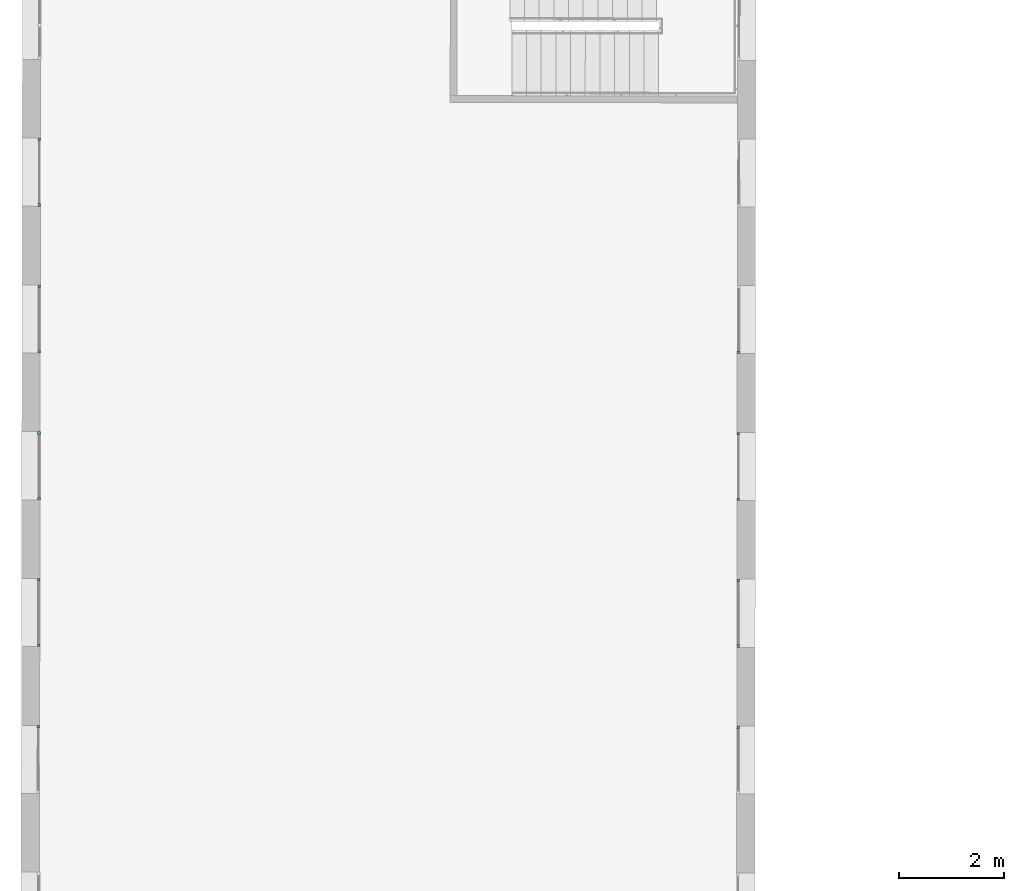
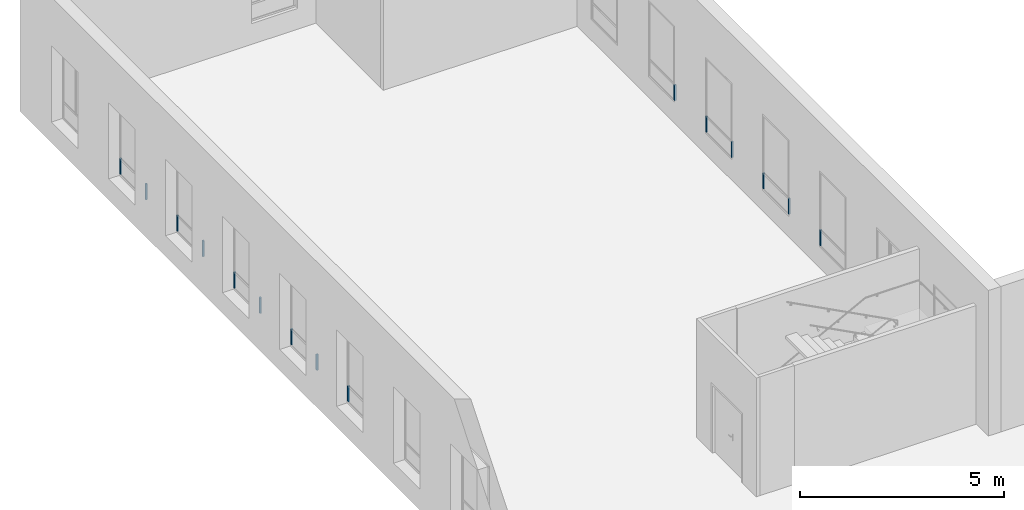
# One storey, part 17 of 35: 15 members, 9 elements without a shape of their own.
"""IFC2X3 building model written with IfcOpenShell, lengths in metres."""

from ifc_helpers import new_model, entity, si_unit, converted_unit, derived_unit, direction, frame, origin, origin_2d_with_axis, place, context, subcontext, project, spatial, rectangle, extrude, source, transform, mapped, material, type_object, type_shapes, element, aggregate, save


model = new_model("IFC2X3")

# Units and contexts
model_context = context("Model", 3, precision=1e-05, world=origin(), true_north=direction((6.123233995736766e-17, 1.0)))
body_context = subcontext(model_context, "Body", "Model", "MODEL_VIEW")
ifc_project = project(units=[si_unit("LENGTHUNIT", "METRE"), si_unit("AREAUNIT", "SQUARE_METRE"), converted_unit("PLANEANGLEUNIT", "DEGREE", entity("IfcPlaneAngleMeasure", 0.017453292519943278), si_unit("PLANEANGLEUNIT", "RADIAN"), dimensions=[0, 0, 0, 0, 0, 0, 0]), derived_unit("THERMALTRANSMITTANCEUNIT", [(si_unit("MASSUNIT", "GRAM", prefix="KILO"), 1), (si_unit("THERMODYNAMICTEMPERATUREUNIT", "KELVIN"), -1), (si_unit("TIMEUNIT", "SECOND"), -3)])], contexts=[model_context])

# Site, building, storey
site_placement = place(None, frame((1253.6752467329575, 2072.143113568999, 91.49999999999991), z_axis=(0.0, 0.0, 1.0), x_axis=(0.7237211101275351, 0.6900925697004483, 0.0)))
site = spatial("IfcSite", under=ifc_project, at=site_placement, Name="Surface", CompositionType="ELEMENT")
building_placement = place(site_placement, origin())
building = spatial("IfcBuilding", under=site, at=building_placement, CompositionType="ELEMENT")
storey_placement = place(building_placement, frame((0.0, 0.0, 3.549999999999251)))
storey = spatial("IfcBuildingStorey", under=building, at=storey_placement, Name="1-R+1", CompositionType="ELEMENT", Elevation=3.549999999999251)

# Curtain wall, member
curtain_wall_type = type_object("IfcCurtainWallType", Name="Mur-rideau:Menuiserie Ext 1F+1OB VERTIC", PredefinedType="NOTDEFINED")
curtain_wall_1_placement = place(storey_placement, frame((0.0, 0.0, -3.549999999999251)))
curtain_wall_1 = element("IfcCurtainWall", 1, at=curtain_wall_1_placement, inside=storey, type_object=curtain_wall_type, Name="Mur-rideau:Menuiserie Ext 1F+1OB VERTIC", ObjectType="Mur-rideau:Menuiserie Ext 1F+1OB VERTIC")
ifc_material = material(Name="OMD_Aluminium Men Ext")
member_type_1 = type_object("IfcMemberType", Name="Meneau rectangulaire:50x50", PredefinedType="MULLION", material=ifc_material)
shared_shape_1 = source(origin(), body_context, "Body", "SweptSolid", [
    extrude(rectangle(XDim=0.05, YDim=0.049999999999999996, at=origin_2d_with_axis()), frame((-0.025, 0.0, -0.4699999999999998), z_axis=(0.0, 0.0, 1.0), x_axis=(-1.0, 0.0, 0.0)), (0.0, 0.0, 1.0), 0.4699999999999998),
])
type_shapes(member_type_1, [shared_shape_1])
member_1_placement = place(curtain_wall_1_placement, frame((159.56004066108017, 20.33143924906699, 4.219999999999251), z_axis=(0.0, 0.0, -1.0), x_axis=(0.6911544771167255, 0.7227070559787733, 0.0)))
member_1 = element("IfcMember", 2, at=member_1_placement, type_object=member_type_1, material=ifc_material, Name="Meneau rectangulaire:50x50", ObjectType="Meneau rectangulaire:50x50", context=body_context, shape_type="MappedRepresentation", body=[
    mapped(shared_shape_1, transform((0.0, 0.0, 0.0), scale=1.0)),
])

curtain_wall_2_placement = place(storey_placement, frame((0.0, 0.0, -3.549999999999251)))
curtain_wall_2 = element("IfcCurtainWall", 3, at=curtain_wall_2_placement, inside=storey, type_object=curtain_wall_type, Name="Mur-rideau:Menuiserie Ext 1F+1OB VERTIC", ObjectType="Mur-rideau:Menuiserie Ext 1F+1OB VERTIC")
member_2_placement = place(curtain_wall_2_placement, frame((161.49479533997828, 22.355475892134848, 4.219999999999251), z_axis=(0.0, 0.0, -1.0), x_axis=(0.6911544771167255, 0.7227070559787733, 0.0)))
member_2 = element("IfcMember", 4, at=member_2_placement, type_object=member_type_1, material=ifc_material, Name="Meneau rectangulaire:50x50", ObjectType="Meneau rectangulaire:50x50", context=body_context, shape_type="MappedRepresentation", body=[
    mapped(shared_shape_1, transform((0.0, 0.0, 0.0), scale=1.0)),
])

curtain_wall_3_placement = place(storey_placement, frame((0.0, 0.0, -3.549999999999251)))
curtain_wall_3 = element("IfcCurtainWall", 5, at=curtain_wall_3_placement, inside=storey, type_object=curtain_wall_type, Name="Mur-rideau:Menuiserie Ext 1F+1OB VERTIC", ObjectType="Mur-rideau:Menuiserie Ext 1F+1OB VERTIC")
member_3_placement = place(curtain_wall_3_placement, frame((163.4295500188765, 24.37951253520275, 4.219999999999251), z_axis=(0.0, 0.0, -1.0), x_axis=(0.6911544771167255, 0.7227070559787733, 0.0)))
member_3 = element("IfcMember", 6, at=member_3_placement, type_object=member_type_1, material=ifc_material, Name="Meneau rectangulaire:50x50", ObjectType="Meneau rectangulaire:50x50", context=body_context, shape_type="MappedRepresentation", body=[
    mapped(shared_shape_1, transform((0.0, 0.0, 0.0), scale=1.0)),
])

curtain_wall_4_placement = place(storey_placement, frame((0.0, 0.0, -3.549999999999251)))
curtain_wall_4 = element("IfcCurtainWall", 7, at=curtain_wall_4_placement, inside=storey, type_object=curtain_wall_type, Name="Mur-rideau:Menuiserie Ext 1F+1OB VERTIC", ObjectType="Mur-rideau:Menuiserie Ext 1F+1OB VERTIC")
member_4_placement = place(curtain_wall_4_placement, frame((157.62250968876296, 18.310060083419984, 4.219999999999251), z_axis=(0.0, 0.0, -1.0), x_axis=(0.6911544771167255, 0.7227070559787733, 0.0)))
member_4 = element("IfcMember", 8, at=member_4_placement, type_object=member_type_1, material=ifc_material, Name="Meneau rectangulaire:50x50", ObjectType="Meneau rectangulaire:50x50", context=body_context, shape_type="MappedRepresentation", body=[
    mapped(shared_shape_1, transform((0.0, 0.0, 0.0), scale=1.0)),
])

curtain_wall_5_placement = place(storey_placement, frame((0.0, 0.0, -3.549999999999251)))
curtain_wall_5 = element("IfcCurtainWall", 9, at=curtain_wall_5_placement, inside=storey, type_object=curtain_wall_type, Name="Mur-rideau:Menuiserie Ext 1F+1OB VERTIC", ObjectType="Mur-rideau:Menuiserie Ext 1F+1OB VERTIC")
member_5_placement = place(curtain_wall_5_placement, frame((155.68497871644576, 16.288680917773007, 4.219999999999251), z_axis=(0.0, 0.0, -1.0), x_axis=(0.6911544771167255, 0.7227070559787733, 0.0)))
member_5 = element("IfcMember", 10, at=member_5_placement, type_object=member_type_1, material=ifc_material, Name="Meneau rectangulaire:50x50", ObjectType="Meneau rectangulaire:50x50", context=body_context, shape_type="MappedRepresentation", body=[
    mapped(shared_shape_1, transform((0.0, 0.0, 0.0), scale=1.0)),
])
aggregate(curtain_wall_5, [member_5])

# Member
member_type_2 = type_object("IfcMemberType", Name="Meneau rectangulaire:50x50", PredefinedType="MULLION", material=ifc_material)
shared_shape_2 = source(origin(), body_context, "Body", "SweptSolid", [
    extrude(rectangle(XDim=0.05, YDim=0.049999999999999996, at=origin_2d_with_axis()), frame((-0.025, 0.0, -0.4699999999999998), z_axis=(0.0, 0.0, 1.0), x_axis=(-1.0, 0.0, 0.0)), (0.0, 0.0, 1.0), 0.4699999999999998),
])
type_shapes(member_type_2, [shared_shape_2])
member_6_placement = place(curtain_wall_1_placement, frame((158.66175001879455, 19.392139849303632, 4.689999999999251), z_axis=(0.0, 0.0, 1.0), x_axis=(-0.6911544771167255, -0.7227070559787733, 0.0)))
member_6 = element("IfcMember", 11, at=member_6_placement, type_object=member_type_2, material=ifc_material, Name="Meneau rectangulaire:50x50", ObjectType="Meneau rectangulaire:50x50", context=body_context, shape_type="MappedRepresentation", body=[
    mapped(shared_shape_2, transform((0.0, 0.0, 0.0), scale=1.0)),
])

aggregate(curtain_wall_1, [member_1, member_6])

member_7_placement = place(curtain_wall_2_placement, frame((160.59650469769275, 21.41617649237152, 4.689999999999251), z_axis=(0.0, 0.0, 1.0), x_axis=(-0.6911544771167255, -0.7227070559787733, 0.0)))
member_7 = element("IfcMember", 12, at=member_7_placement, type_object=member_type_2, material=ifc_material, Name="Meneau rectangulaire:50x50", ObjectType="Meneau rectangulaire:50x50", context=body_context, shape_type="MappedRepresentation", body=[
    mapped(shared_shape_2, transform((0.0, 0.0, 0.0), scale=1.0)),
])

aggregate(curtain_wall_2, [member_2, member_7])

member_8_placement = place(curtain_wall_3_placement, frame((162.53125937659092, 23.440213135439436, 4.689999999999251), z_axis=(0.0, 0.0, 1.0), x_axis=(-0.6911544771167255, -0.7227070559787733, 0.0)))
member_8 = element("IfcMember", 13, at=member_8_placement, type_object=member_type_2, material=ifc_material, Name="Meneau rectangulaire:50x50", ObjectType="Meneau rectangulaire:50x50", context=body_context, shape_type="MappedRepresentation", body=[
    mapped(shared_shape_2, transform((0.0, 0.0, 0.0), scale=1.0)),
])

aggregate(curtain_wall_3, [member_3, member_8])

member_9_placement = place(curtain_wall_4_placement, frame((156.7242190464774, 17.37076068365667, 4.689999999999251), z_axis=(0.0, 0.0, 1.0), x_axis=(-0.6911544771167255, -0.7227070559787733, 0.0)))
member_9 = element("IfcMember", 14, at=member_9_placement, type_object=member_type_2, material=ifc_material, Name="Meneau rectangulaire:50x50", ObjectType="Meneau rectangulaire:50x50", context=body_context, shape_type="MappedRepresentation", body=[
    mapped(shared_shape_2, transform((0.0, 0.0, 0.0), scale=1.0)),
])

aggregate(curtain_wall_4, [member_4, member_9])

# Curtain wall, member
curtain_wall_6_placement = place(storey_placement, frame((0.0, 0.0, -3.549999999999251)))
curtain_wall_6 = element("IfcCurtainWall", 15, at=curtain_wall_6_placement, inside=storey, type_object=curtain_wall_type, Name="Mur-rideau:Menuiserie Ext 1F+1OB VERTIC", ObjectType="Mur-rideau:Menuiserie Ext 1F+1OB VERTIC")
member_type_3 = type_object("IfcMemberType", Name="Meneau rectangulaire:50x50", PredefinedType="MULLION", material=ifc_material)
shared_shape_3 = source(origin(), body_context, "Body", "SweptSolid", [
    extrude(rectangle(XDim=0.05, YDim=0.049999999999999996, at=origin_2d_with_axis()), frame((-0.025, 0.0, -0.4699999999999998), z_axis=(0.0, 0.0, 1.0), x_axis=(-1.0, 0.0, 0.0)), (0.0, 0.0, 1.0), 0.4699999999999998),
])
type_shapes(member_type_3, [shared_shape_3])
member_10_placement = place(curtain_wall_6_placement, frame((169.20438315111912, 11.117999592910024, 4.219999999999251), z_axis=(0.0, 0.0, -1.0), x_axis=(0.6909838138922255, 0.722870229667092, 0.0)))
member_10 = element("IfcMember", 16, at=member_10_placement, type_object=member_type_3, material=ifc_material, Name="Meneau rectangulaire:50x50", ObjectType="Meneau rectangulaire:50x50", context=body_context, shape_type="MappedRepresentation", body=[
    mapped(shared_shape_3, transform((0.0, 0.0, 0.0), scale=1.0)),
])

curtain_wall_7_placement = place(storey_placement, frame((0.0, 0.0, -3.549999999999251)))
curtain_wall_7 = element("IfcCurtainWall", 17, at=curtain_wall_7_placement, inside=storey, type_object=curtain_wall_type, Name="Mur-rideau:Menuiserie Ext 1F+1OB VERTIC", ObjectType="Mur-rideau:Menuiserie Ext 1F+1OB VERTIC")
member_11_placement = place(curtain_wall_7_placement, frame((167.26962847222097, 9.093962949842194, 4.219999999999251), z_axis=(0.0, 0.0, -1.0), x_axis=(0.6909838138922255, 0.722870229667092, 0.0)))
member_11 = element("IfcMember", 18, at=member_11_placement, type_object=member_type_3, material=ifc_material, Name="Meneau rectangulaire:50x50", ObjectType="Meneau rectangulaire:50x50", context=body_context, shape_type="MappedRepresentation", body=[
    mapped(shared_shape_3, transform((0.0, 0.0, 0.0), scale=1.0)),
])

curtain_wall_8_placement = place(storey_placement, frame((0.0, 0.0, -3.549999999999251)))
curtain_wall_8 = element("IfcCurtainWall", 19, at=curtain_wall_8_placement, inside=storey, type_object=curtain_wall_type, Name="Mur-rideau:Menuiserie Ext 1F+1OB VERTIC", ObjectType="Mur-rideau:Menuiserie Ext 1F+1OB VERTIC")
member_12_placement = place(curtain_wall_8_placement, frame((165.33487379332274, 7.069926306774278, 4.219999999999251), z_axis=(0.0, 0.0, -1.0), x_axis=(0.6909838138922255, 0.722870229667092, 0.0)))
member_12 = element("IfcMember", 20, at=member_12_placement, type_object=member_type_3, material=ifc_material, Name="Meneau rectangulaire:50x50", ObjectType="Meneau rectangulaire:50x50", context=body_context, shape_type="MappedRepresentation", body=[
    mapped(shared_shape_3, transform((0.0, 0.0, 0.0), scale=1.0)),
])
aggregate(curtain_wall_8, [member_12])

curtain_wall_9_placement = place(storey_placement, frame((0.0, 0.0, -3.549999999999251)))
curtain_wall_9 = element("IfcCurtainWall", 21, at=curtain_wall_9_placement, inside=storey, type_object=curtain_wall_type, Name="Mur-rideau:Menuiserie Ext 1F+1OB VERTIC", ObjectType="Mur-rideau:Menuiserie Ext 1F+1OB VERTIC")
member_type_4 = type_object("IfcMemberType", Name="Meneau rectangulaire:50x50", PredefinedType="MULLION", material=ifc_material)
shared_shape_4 = source(origin(), body_context, "Body", "SweptSolid", [
    extrude(rectangle(XDim=0.05, YDim=0.05000000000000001, at=origin_2d_with_axis()), frame((-0.025, 0.0, -0.4699999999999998), z_axis=(0.0, 0.0, 1.0), x_axis=(-1.0, 0.0, 0.0)), (0.0, 0.0, 1.0), 0.4699999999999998),
])
type_shapes(member_type_4, [shared_shape_4])
member_13_placement = place(curtain_wall_9_placement, frame((170.24106899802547, 12.202524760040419, 4.689999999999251), z_axis=(0.0, 0.0, 1.0), x_axis=(-0.6909838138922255, -0.722870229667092, 0.0)))
member_13 = element("IfcMember", 22, at=member_13_placement, type_object=member_type_4, material=ifc_material, Name="Meneau rectangulaire:50x50", ObjectType="Meneau rectangulaire:50x50", context=body_context, shape_type="MappedRepresentation", body=[
    mapped(shared_shape_4, transform((0.0, 0.0, 0.0), scale=1.0)),
])
aggregate(curtain_wall_9, [member_13])

# Member
member_14_placement = place(curtain_wall_6_placement, frame((168.30631431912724, 10.178488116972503, 4.689999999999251), z_axis=(0.0, 0.0, 1.0), x_axis=(-0.6909838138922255, -0.722870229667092, 0.0)))
member_14 = element("IfcMember", 23, at=member_14_placement, type_object=member_type_4, material=ifc_material, Name="Meneau rectangulaire:50x50", ObjectType="Meneau rectangulaire:50x50", context=body_context, shape_type="MappedRepresentation", body=[
    mapped(shared_shape_4, transform((0.0, 0.0, 0.0), scale=1.0)),
])

aggregate(curtain_wall_6, [member_10, member_14])

member_15_placement = place(curtain_wall_7_placement, frame((166.3715596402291, 8.154451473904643, 4.689999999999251), z_axis=(0.0, 0.0, 1.0), x_axis=(-0.6909838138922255, -0.722870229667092, 0.0)))
member_15 = element("IfcMember", 24, at=member_15_placement, type_object=member_type_4, material=ifc_material, Name="Meneau rectangulaire:50x50", ObjectType="Meneau rectangulaire:50x50", context=body_context, shape_type="MappedRepresentation", body=[
    mapped(shared_shape_4, transform((0.0, 0.0, 0.0), scale=1.0)),
])

aggregate(curtain_wall_7, [member_11, member_15])

save(model, "model.ifc")
